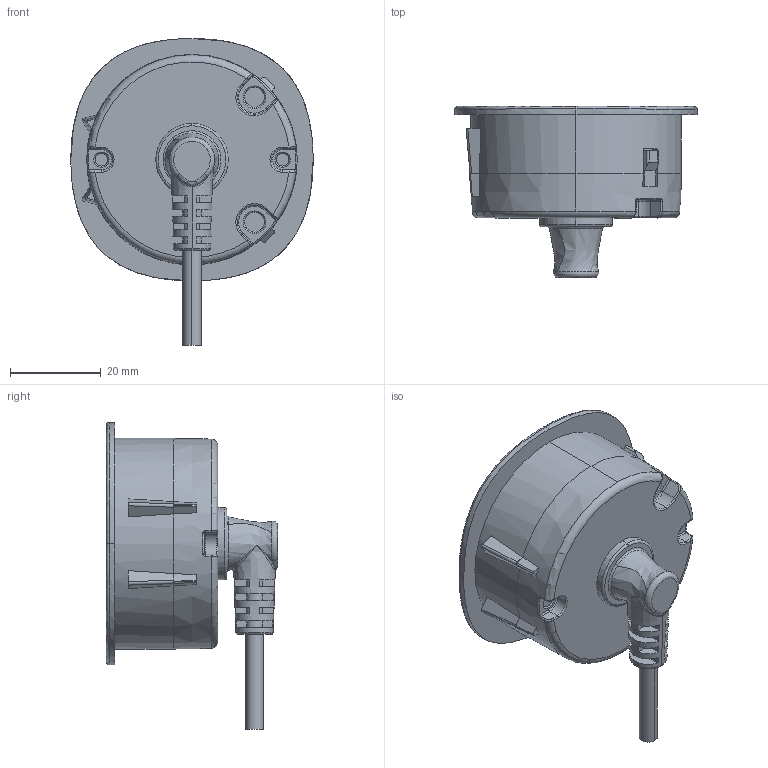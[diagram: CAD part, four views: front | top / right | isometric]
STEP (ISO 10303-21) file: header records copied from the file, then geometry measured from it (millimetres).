
FILE_DESCRIPTION (( 'STEP AP214' ), '1' );
FILE_NAME ('TDH4-A.STEP', '2015-06-03T09:35:34', ( '' ), ( '' ), 'SwSTEP 2.0', 'SolidWorks 2010', '' );
FILE_SCHEMA (( 'AUTOMOTIVE_DESIGN' ));
Length unit declared in the file: millimetre
Products named in the file (1): TDH4-A
Bounding box: 53.5 x 37.8 x 67.75 mm (x, y, z)
Volume: 44552.6 mm3; surface area: 18920.7 mm2
Topology: 9 solids, 9 shells, 328 faces, 811 edges, 517 vertices
Faces by surface type: plane 163, cylinder 78, bspline 51, torus 24, cone 12
Entity records: 22786 total; most frequent: CARTESIAN_POINT 11956, ORIENTED_EDGE 1622, DIRECTION 1436, EDGE_CURVE 811, AXIS2_PLACEMENT_3D 524, VERTEX_POINT 517, VECTOR 388, LINE 388
